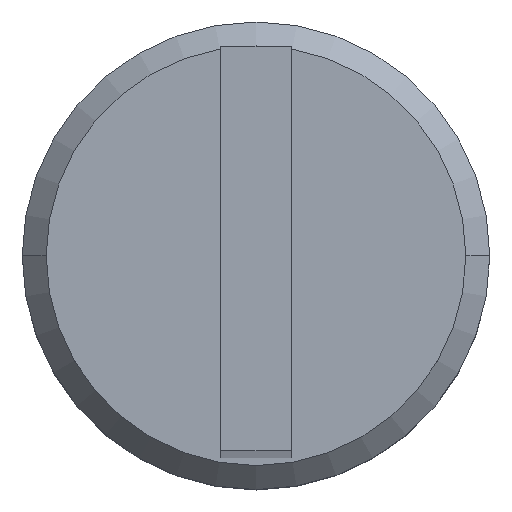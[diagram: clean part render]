
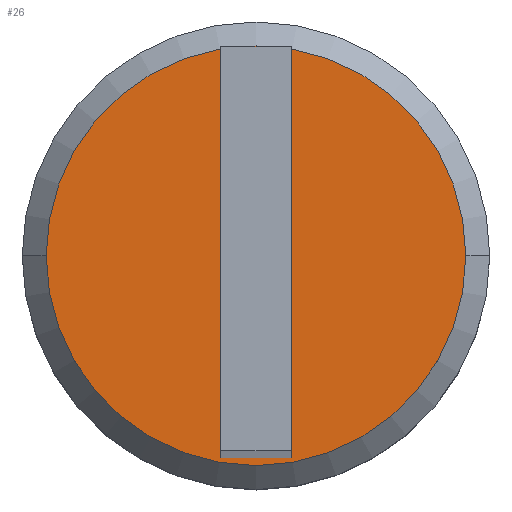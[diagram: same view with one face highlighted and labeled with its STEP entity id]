
A CAD part, top view. The second image highlights one B-rep face of the part: STEP entity #26.
In plain terms, the highlighted planar face has unit normal (0, 0, 1).
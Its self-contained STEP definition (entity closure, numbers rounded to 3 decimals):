
#5 = DIRECTION ( 'NONE',  ( 0., 0., -1. ) ) ;
#26 = ADVANCED_FACE ( 'NONE', ( #604 ), #195, .F. ) ;
#77 = CARTESIAN_POINT ( 'NONE',  ( 7.475, 0., 10. ) ) ;
#101 = DIRECTION ( 'NONE',  ( 1., 0., 0. ) ) ;
#110 = DIRECTION ( 'NONE',  ( 0., 0., 1. ) ) ;
#123 = CARTESIAN_POINT ( 'NONE',  ( 0., 0., 10. ) ) ;
#145 = VERTEX_POINT ( 'NONE', #1571 ) ;
#195 = PLANE ( 'NONE',  #262 ) ;
#262 = AXIS2_PLACEMENT_3D ( 'NONE', #77, #5, #677 ) ;
#339 = EDGE_CURVE ( 'NONE', #145, #1305, #1218, .T. ) ;
#454 = EDGE_CURVE ( 'NONE', #1305, #145, #1387, .T. ) ;
#564 = ORIENTED_EDGE ( 'NONE', *, *, #339, .T. ) ;
#604 = FACE_OUTER_BOUND ( 'NONE', #1713, .T. ) ;
#677 = DIRECTION ( 'NONE',  ( -1., 0., 0. ) ) ;
#1218 = CIRCLE ( 'NONE', #1536, 7.475 ) ;
#1279 = AXIS2_PLACEMENT_3D ( 'NONE', #123, #110, #101 ) ;
#1305 = VERTEX_POINT ( 'NONE', #1729 ) ;
#1387 = CIRCLE ( 'NONE', #1279, 7.475 ) ;
#1425 = ORIENTED_EDGE ( 'NONE', *, *, #454, .T. ) ;
#1442 = DIRECTION ( 'NONE',  ( 1., 0., 0. ) ) ;
#1452 = DIRECTION ( 'NONE',  ( 0., 0., 1. ) ) ;
#1457 = CARTESIAN_POINT ( 'NONE',  ( 0., 0., 10. ) ) ;
#1536 = AXIS2_PLACEMENT_3D ( 'NONE', #1457, #1452, #1442 ) ;
#1571 = CARTESIAN_POINT ( 'NONE',  ( 7.475, 0., 10. ) ) ;
#1713 = EDGE_LOOP ( 'NONE', ( #564, #1425 ) ) ;
#1729 = CARTESIAN_POINT ( 'NONE',  ( -7.475, 0., 10. ) ) ;
